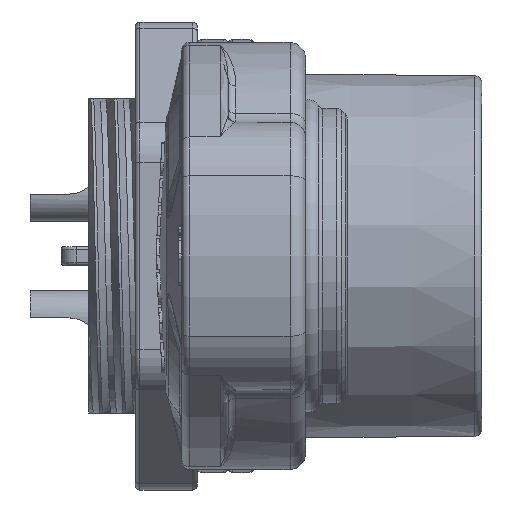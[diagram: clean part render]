
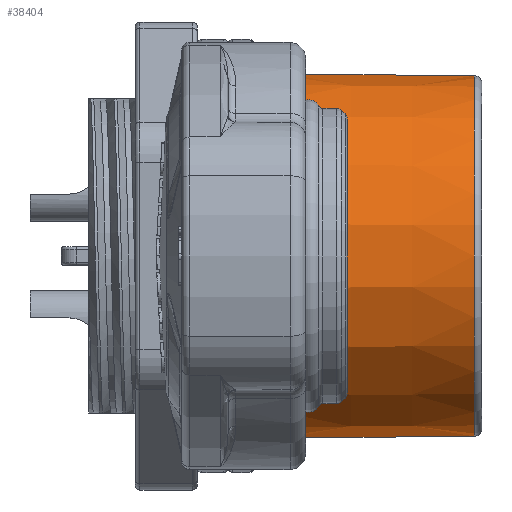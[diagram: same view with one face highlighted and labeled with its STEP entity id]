
A CAD part, front view. The second image highlights one B-rep face of the part: STEP entity #38404.
In plain terms, the highlighted conical face has half-angle 0.5 degrees and reference radius 11.65 mm.
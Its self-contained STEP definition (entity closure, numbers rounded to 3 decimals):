
#1298 = CARTESIAN_POINT ( 'NONE',  ( 0., 0., 0. ) ) ;
#1695 = CARTESIAN_POINT ( 'NONE',  ( -12.477, -0.335, -11.759 ) ) ;
#1899 = EDGE_CURVE ( 'NONE', #38298, #19969, #16769, .T. ) ;
#2035 = FACE_OUTER_BOUND ( 'NONE', #20604, .T. ) ;
#3476 = CARTESIAN_POINT ( 'NONE',  ( -0.496, 0., 0. ) ) ;
#4030 = CARTESIAN_POINT ( 'NONE',  ( -0.496, 0., 11.654 ) ) ;
#4220 = EDGE_CURVE ( 'NONE', #19969, #11845, #16308, .T. ) ;
#6353 = VECTOR ( 'NONE', #46249, 1000. ) ;
#9300 = VERTEX_POINT ( 'NONE', #12134 ) ;
#9980 = CARTESIAN_POINT ( 'NONE',  ( -12.425, -1.34, 11.687 ) ) ;
#10343 = CARTESIAN_POINT ( 'NONE',  ( -0.496, 0., -11.654 ) ) ;
#11779 = B_SPLINE_CURVE_WITH_KNOTS ( 'NONE', 3,
 ( #24076, #19219, #26851, #23163, #1695, #41338 ),
 .UNSPECIFIED., .F., .F.,
 ( 4, 2, 4 ),
 ( 0., 0.001, 0.002 ),
 .UNSPECIFIED. ) ;
#11845 = VERTEX_POINT ( 'NONE', #22470 ) ;
#12081 = AXIS2_PLACEMENT_3D ( 'NONE', #1298, #16050, #20216 ) ;
#12134 = CARTESIAN_POINT ( 'NONE',  ( -12.404, -2.007, 11.586 ) ) ;
#13368 = EDGE_CURVE ( 'NONE', #38298, #15468, #18433, .T. ) ;
#14072 = ORIENTED_EDGE ( 'NONE', *, *, #23318, .T. ) ;
#15344 = ORIENTED_EDGE ( 'NONE', *, *, #1899, .T. ) ;
#15468 = VERTEX_POINT ( 'NONE', #16057 ) ;
#16050 = DIRECTION ( 'NONE',  ( -1., 0., 0. ) ) ;
#16057 = CARTESIAN_POINT ( 'NONE',  ( -12.477, 0., -11.759 ) ) ;
#16308 = LINE ( 'NONE', #42581, #6353 ) ;
#16617 = DIRECTION ( 'NONE',  ( 1., 0., 0. ) ) ;
#16769 = CIRCLE ( 'NONE', #45744, 11.654 ) ;
#18433 = LINE ( 'NONE', #29974, #34634 ) ;
#18671 = DIRECTION ( 'NONE',  ( -1., 0., -0.009 ) ) ;
#19017 = VERTEX_POINT ( 'NONE', #24925 ) ;
#19219 = CARTESIAN_POINT ( 'NONE',  ( -12.404, -1.674, -11.643 ) ) ;
#19888 = EDGE_CURVE ( 'NONE', #11845, #9300, #28659, .T. ) ;
#19969 = VERTEX_POINT ( 'NONE', #4030 ) ;
#20216 = DIRECTION ( 'NONE',  ( 0., 0., 1. ) ) ;
#20604 = EDGE_LOOP ( 'NONE', ( #38729, #15344, #42096, #35206, #26014, #14072 ) ) ;
#20778 = CARTESIAN_POINT ( 'NONE',  ( -12.477, -0.335, 11.759 ) ) ;
#21023 = CARTESIAN_POINT ( 'NONE',  ( -12.404, -2.007, 11.586 ) ) ;
#21287 = EDGE_CURVE ( 'NONE', #9300, #19017, #24704, .T. ) ;
#21539 = AXIS2_PLACEMENT_3D ( 'NONE', #31848, #16617, #31338 ) ;
#22470 = CARTESIAN_POINT ( 'NONE',  ( -12.477, 0., 11.759 ) ) ;
#23163 = CARTESIAN_POINT ( 'NONE',  ( -12.462, -0.67, -11.744 ) ) ;
#23318 = EDGE_CURVE ( 'NONE', #19017, #15468, #11779, .T. ) ;
#24076 = CARTESIAN_POINT ( 'NONE',  ( -12.404, -2.007, -11.586 ) ) ;
#24704 = CIRCLE ( 'NONE', #21539, 11.758 ) ;
#24925 = CARTESIAN_POINT ( 'NONE',  ( -12.404, -2.007, -11.586 ) ) ;
#26014 = ORIENTED_EDGE ( 'NONE', *, *, #21287, .T. ) ;
#26851 = CARTESIAN_POINT ( 'NONE',  ( -12.425, -1.34, -11.687 ) ) ;
#28659 = B_SPLINE_CURVE_WITH_KNOTS ( 'NONE', 3,
 ( #46822, #20778, #38496, #9980, #47560, #21023 ),
 .UNSPECIFIED., .F., .F.,
 ( 4, 2, 4 ),
 ( 0.002, 0.003, 0.004 ),
 .UNSPECIFIED. ) ;
#29553 = DIRECTION ( 'NONE',  ( 0., 0., -1. ) ) ;
#29974 = CARTESIAN_POINT ( 'NONE',  ( 0., 0., -11.65 ) ) ;
#30174 = CONICAL_SURFACE ( 'NONE', #12081, 11.65, 0.009 ) ;
#31338 = DIRECTION ( 'NONE',  ( 0., 0., 1. ) ) ;
#31848 = CARTESIAN_POINT ( 'NONE',  ( -12.404, 0., 0. ) ) ;
#34634 = VECTOR ( 'NONE', #18671, 1000. ) ;
#35206 = ORIENTED_EDGE ( 'NONE', *, *, #19888, .T. ) ;
#38298 = VERTEX_POINT ( 'NONE', #10343 ) ;
#38404 = ADVANCED_FACE ( 'NONE', ( #2035 ), #30174, .T. ) ;
#38496 = CARTESIAN_POINT ( 'NONE',  ( -12.462, -0.67, 11.744 ) ) ;
#38729 = ORIENTED_EDGE ( 'NONE', *, *, #13368, .F. ) ;
#41338 = CARTESIAN_POINT ( 'NONE',  ( -12.477, 0., -11.759 ) ) ;
#42096 = ORIENTED_EDGE ( 'NONE', *, *, #4220, .T. ) ;
#42581 = CARTESIAN_POINT ( 'NONE',  ( 0., 0., 11.65 ) ) ;
#44035 = DIRECTION ( 'NONE',  ( -1., 0., 0. ) ) ;
#45744 = AXIS2_PLACEMENT_3D ( 'NONE', #3476, #44035, #29553 ) ;
#46249 = DIRECTION ( 'NONE',  ( -1., 0., 0.009 ) ) ;
#46822 = CARTESIAN_POINT ( 'NONE',  ( -12.477, 0., 11.759 ) ) ;
#47560 = CARTESIAN_POINT ( 'NONE',  ( -12.404, -1.674, 11.643 ) ) ;
